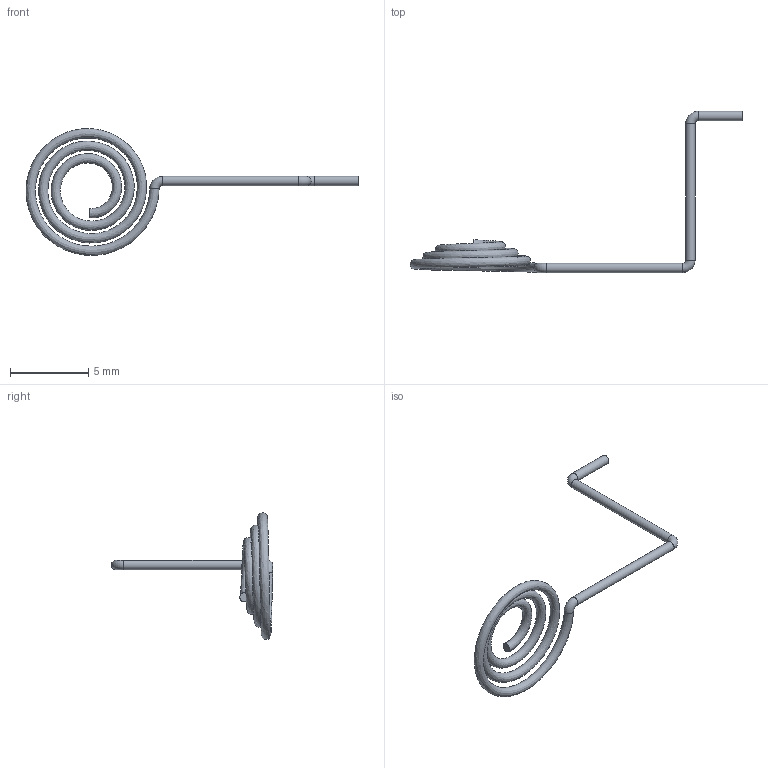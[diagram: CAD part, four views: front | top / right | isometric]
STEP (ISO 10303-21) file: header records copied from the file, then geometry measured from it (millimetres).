
FILE_DESCRIPTION(/* description */ (''),/* implementation_level */ '2;1');
FILE_NAME(/* name */ 'C:/Users/RileyStevenson/RileyS/Battery Coils/Positive Coil - Simple Version v2.step',/* time_stamp */ '2022-02-18T15:24:33-06:00',/* author */ (''),/* organization */ (''),/* preprocessor_version */ 'ST-DEVELOPER v18.1',/* originating_system */ 'Autodesk Translation Framework v10.13.0.1454',/* authorisation */ '');
FILE_SCHEMA (('AUTOMOTIVE_DESIGN { 1 0 10303 214 3 1 1 }'));
Length unit declared in the file: millimetre
Products named in the file (1): Positive Coil - Simple Version
Bounding box: 21.2 x 10.3 x 8.09 mm (x, y, z)
Volume: 22.8 mm3; surface area: 152.9 mm2
Topology: 1 solids, 1 shells, 9 faces, 20 edges, 13 vertices
Faces by surface type: cylinder 3, torus 3, plane 2, bspline 1
Full cylindrical faces by diameter (mm): 0.6 x3
Entity records: 636 total; most frequent: CARTESIAN_POINT 389, DIRECTION 53, ORIENTED_EDGE 40, AXIS2_PLACEMENT_3D 25, EDGE_CURVE 20, CIRCLE 16, VERTEX_POINT 13, FACE_OUTER_BOUND 9
